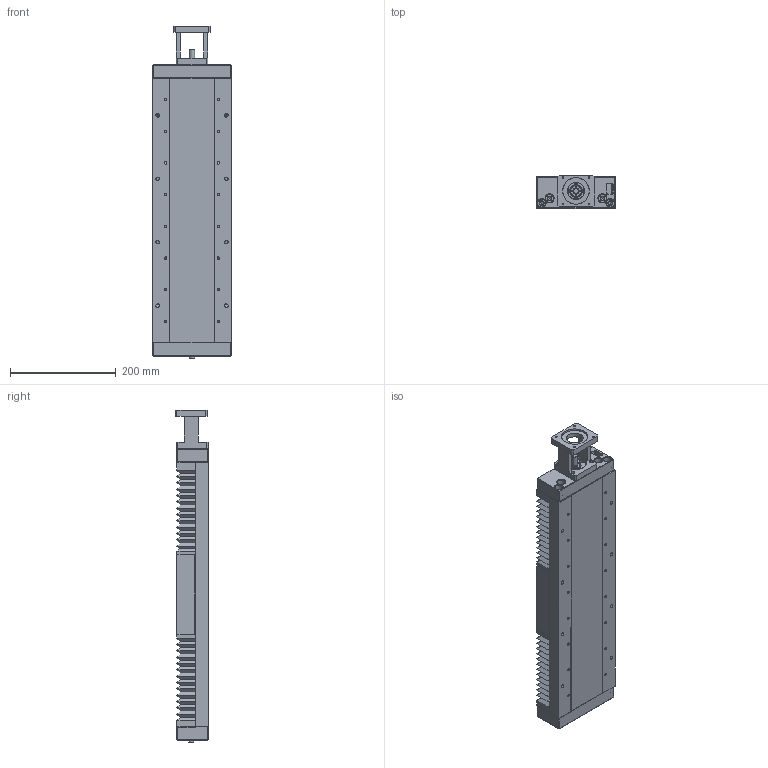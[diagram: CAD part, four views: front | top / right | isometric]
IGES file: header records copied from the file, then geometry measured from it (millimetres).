
Start section: SolidWorks IGES file using analytic representation for surfaces
Bounding box: 150 x 63 x 628 mm (x, y, z)
Surface area: 553687.8 mm2 (no closed solid volume)
Topology: 0 solids, 0 shells, 859 faces, 14590 edges, 14550 vertices
Faces by surface type: revolution 430, bspline 429
